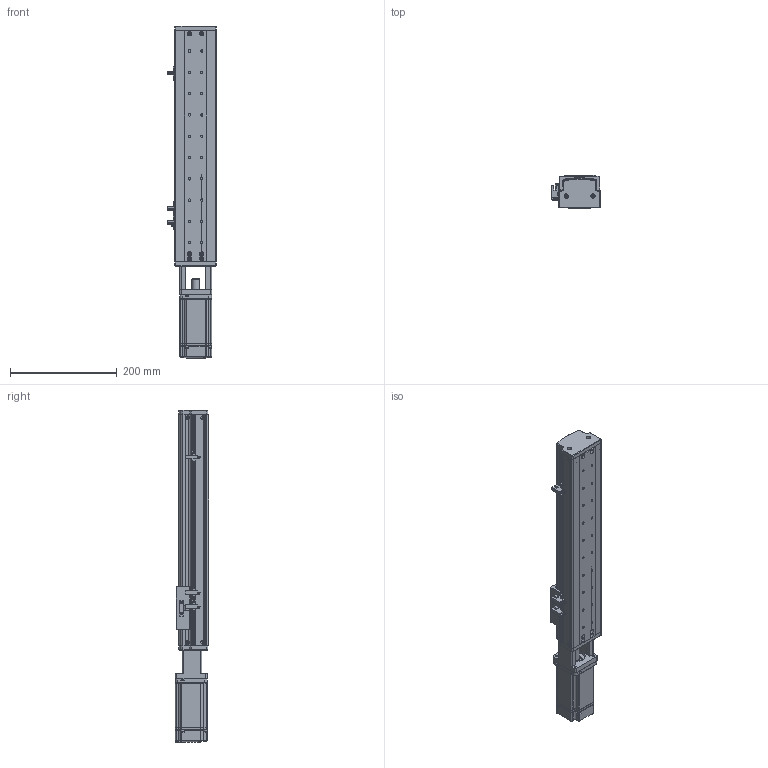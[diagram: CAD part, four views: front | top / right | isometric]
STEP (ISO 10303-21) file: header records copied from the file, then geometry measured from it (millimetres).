
FILE_DESCRIPTION (( 'STEP AP214' ), '1' );
FILE_NAME ('KSD75S-S280-MT-CM.STEP', '2019-10-18T07:31:03', ( '微软用户' ), ( '微软中国' ), 'SwSTEP 2.0', 'SolidWorks 2014', '' );
FILE_SCHEMA (( 'AUTOMOTIVE_DESIGN' ));
Length unit declared in the file: millimetre
Products named in the file (13): MHMD042G1CA_2_03; 覜茼え100遵圉猾敕; 75遵耀郪盓傅釱1; U倰嫖萇EEㄜSX672; 綴傷啣 ; 100遵鎮湛假蚾啣1 ; ヶ傷啣; 75裔啣-280俴最; 75遵耀郪耜啣-280俴最; 75遵賑雄釱; MGW15H賑寢280俴最 ; 280俴最; KSD75S-S280-MT-CM
Assembly tree (15 placements, depth 3):
  KSD75S-S280-MT-CM
    MGW15H賑寢280俴最 
      280俴最
    75遵賑雄釱
    75遵耀郪耜啣-280俴最  x2
    75裔啣-280俴最
    ヶ傷啣
    100遵鎮湛假蚾啣1 
    綴傷啣 
    U倰嫖萇EEㄜSX672  x3
    75遵耀郪盓傅釱1
    覜茼え100遵圉猾敕
    MHMD042G1CA_2_03
Bounding box: 91.7 x 63 x 623.5 mm (x, y, z)
Volume: 680145.1 mm3; surface area: 417789.6 mm2
Topology: 13 solids, 14 shells, 1457 faces, 4121 edges, 2670 vertices
Faces by surface type: cylinder 674, plane 609, cone 156, bspline 18
Entity records: 47003 total; most frequent: CARTESIAN_POINT 8919, DIRECTION 6922, ORIENTED_EDGE 6482, EDGE_CURVE 3312, AXIS2_PLACEMENT_3D 2534, VERTEX_POINT 2188, VECTOR 1854, LINE 1854
